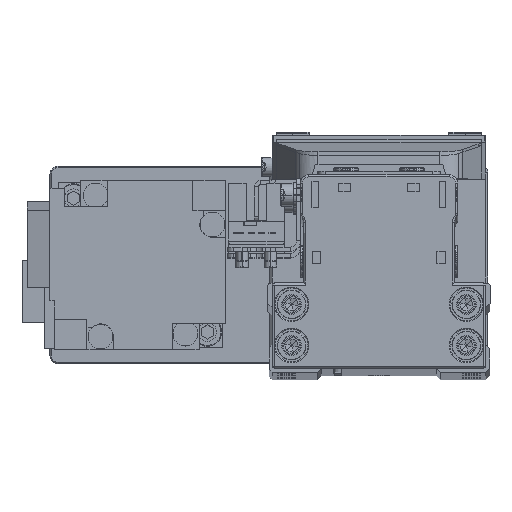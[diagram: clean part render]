
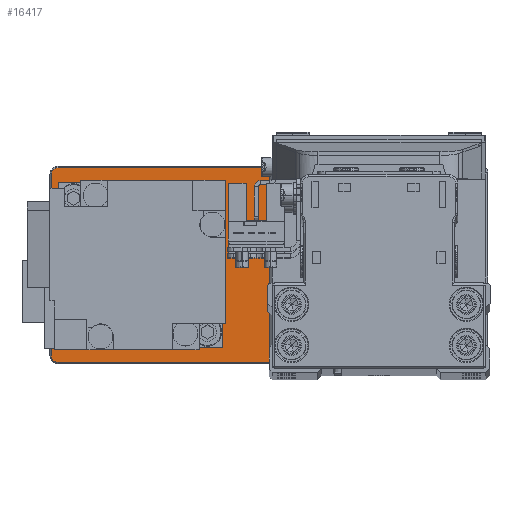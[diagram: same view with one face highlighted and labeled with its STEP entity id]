
A CAD part, top view. The second image highlights one B-rep face of the part: STEP entity #16417.
In plain terms, the highlighted planar face has unit normal (0, 0, 1).
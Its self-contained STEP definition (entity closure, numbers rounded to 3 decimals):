
#159 = EDGE_CURVE ( 'NONE', #37633, #38654, #30682, .T. ) ;
#758 = ORIENTED_EDGE ( 'NONE', *, *, #23570, .T. ) ;
#848 = DIRECTION ( 'NONE',  ( 1., 0., 0. ) ) ;
#1077 = EDGE_CURVE ( 'NONE', #6932, #15935, #21368, .T. ) ;
#1084 = PLANE ( 'NONE',  #8658 ) ;
#1208 = CARTESIAN_POINT ( 'NONE',  ( -50., 22., 5. ) ) ;
#1355 = VERTEX_POINT ( 'NONE', #20129 ) ;
#1693 = CARTESIAN_POINT ( 'NONE',  ( 51.7, 22., 5. ) ) ;
#1804 = ORIENTED_EDGE ( 'NONE', *, *, #22996, .T. ) ;
#2128 = DIRECTION ( 'NONE',  ( 1., 0., 0. ) ) ;
#2242 = DIRECTION ( 'NONE',  ( 0., 0., -1. ) ) ;
#2988 = CARTESIAN_POINT ( 'NONE',  ( -50., 23.7, 5. ) ) ;
#3457 = CIRCLE ( 'NONE', #5270, 1.7 ) ;
#3587 = AXIS2_PLACEMENT_3D ( 'NONE', #24499, #37081, #8809 ) ;
#4189 = FACE_BOUND ( 'NONE', #24601, .T. ) ;
#4329 = AXIS2_PLACEMENT_3D ( 'NONE', #9358, #21931, #34539 ) ;
#5270 = AXIS2_PLACEMENT_3D ( 'NONE', #1208, #13806, #26393 ) ;
#5667 = VECTOR ( 'NONE', #848, 1000. ) ;
#6153 = EDGE_LOOP ( 'NONE', ( #758, #31148, #6431, #1804, #36874, #32486, #20630, #15868 ) ) ;
#6392 = CARTESIAN_POINT ( 'NONE',  ( -51.7, -22., 5. ) ) ;
#6431 = ORIENTED_EDGE ( 'NONE', *, *, #8867, .T. ) ;
#6607 = EDGE_CURVE ( 'NONE', #12679, #1355, #39386, .T. ) ;
#6812 = EDGE_LOOP ( 'NONE', ( #20796, #21241 ) ) ;
#6932 = VERTEX_POINT ( 'NONE', #28064 ) ;
#7241 = CIRCLE ( 'NONE', #30321, 12.8 ) ;
#8658 = AXIS2_PLACEMENT_3D ( 'NONE', #13680, #26258, #38838 ) ;
#8809 = DIRECTION ( 'NONE',  ( 1., 0., 0. ) ) ;
#8867 = EDGE_CURVE ( 'NONE', #1355, #36634, #29983, .T. ) ;
#9358 = CARTESIAN_POINT ( 'NONE',  ( 50., 22., 5. ) ) ;
#9593 = CARTESIAN_POINT ( 'NONE',  ( 17.2, 0., 5. ) ) ;
#9631 = AXIS2_PLACEMENT_3D ( 'NONE', #12753, #25334, #37905 ) ;
#9883 = DIRECTION ( 'NONE',  ( -1., 0., 0. ) ) ;
#9955 = DIRECTION ( 'NONE',  ( 0., 0., 1. ) ) ;
#10006 = CARTESIAN_POINT ( 'NONE',  ( -51.7, 22., 5. ) ) ;
#11469 = EDGE_CURVE ( 'NONE', #19372, #38038, #34666, .T. ) ;
#11723 = DIRECTION ( 'NONE',  ( 1., 0., 0. ) ) ;
#12679 = VERTEX_POINT ( 'NONE', #31370 ) ;
#12753 = CARTESIAN_POINT ( 'NONE',  ( -50., -22., 5. ) ) ;
#13035 = EDGE_CURVE ( 'NONE', #15935, #6932, #15699, .T. ) ;
#13056 = CARTESIAN_POINT ( 'NONE',  ( 50., 23.7, 5. ) ) ;
#13680 = CARTESIAN_POINT ( 'NONE',  ( 0., 0., 5. ) ) ;
#13806 = DIRECTION ( 'NONE',  ( 0., 0., 1. ) ) ;
#14284 = DIRECTION ( 'NONE',  ( 0., 1., 0. ) ) ;
#14827 = DIRECTION ( 'NONE',  ( 1., 0., 0. ) ) ;
#14831 = CARTESIAN_POINT ( 'NONE',  ( -51.7, -22., 5. ) ) ;
#15128 = VECTOR ( 'NONE', #18968, 1000. ) ;
#15631 = VECTOR ( 'NONE', #14284, 1000. ) ;
#15699 = CIRCLE ( 'NONE', #20963, 10.3 ) ;
#15868 = ORIENTED_EDGE ( 'NONE', *, *, #21967, .T. ) ;
#15935 = VERTEX_POINT ( 'NONE', #31525 ) ;
#16417 = ADVANCED_FACE ( 'NONE', ( #4189, #16786, #29376 ), #1084, .T. ) ;
#16541 = LINE ( 'NONE', #29133, #5667 ) ;
#16786 = FACE_BOUND ( 'NONE', #6812, .T. ) ;
#17324 = CARTESIAN_POINT ( 'NONE',  ( 51.7, 22., 5. ) ) ;
#17810 = CARTESIAN_POINT ( 'NONE',  ( 30., 0., 5. ) ) ;
#18153 = VERTEX_POINT ( 'NONE', #13056 ) ;
#18160 = AXIS2_PLACEMENT_3D ( 'NONE', #17810, #30407, #2128 ) ;
#18968 = DIRECTION ( 'NONE',  ( 0., -1., 0. ) ) ;
#19372 = VERTEX_POINT ( 'NONE', #10006 ) ;
#20129 = CARTESIAN_POINT ( 'NONE',  ( 51.7, -22., 5. ) ) ;
#20630 = ORIENTED_EDGE ( 'NONE', *, *, #11469, .T. ) ;
#20796 = ORIENTED_EDGE ( 'NONE', *, *, #1077, .T. ) ;
#20909 = CARTESIAN_POINT ( 'NONE',  ( 42.8, 0., 5. ) ) ;
#20963 = AXIS2_PLACEMENT_3D ( 'NONE', #27415, #39984, #11723 ) ;
#21241 = ORIENTED_EDGE ( 'NONE', *, *, #13035, .T. ) ;
#21368 = CIRCLE ( 'NONE', #3587, 10.3 ) ;
#21573 = AXIS2_PLACEMENT_3D ( 'NONE', #38206, #9955, #22530 ) ;
#21931 = DIRECTION ( 'NONE',  ( 0., 0., 1. ) ) ;
#21967 = EDGE_CURVE ( 'NONE', #38038, #28463, #27428, .T. ) ;
#22103 = CIRCLE ( 'NONE', #4329, 1.7 ) ;
#22530 = DIRECTION ( 'NONE',  ( 1., 0., 0. ) ) ;
#22996 = EDGE_CURVE ( 'NONE', #36634, #18153, #22103, .T. ) ;
#23570 = EDGE_CURVE ( 'NONE', #28463, #12679, #16541, .T. ) ;
#23904 = ORIENTED_EDGE ( 'NONE', *, *, #159, .T. ) ;
#24172 = ORIENTED_EDGE ( 'NONE', *, *, #36747, .T. ) ;
#24499 = CARTESIAN_POINT ( 'NONE',  ( -28., 0., 5. ) ) ;
#24601 = EDGE_LOOP ( 'NONE', ( #23904, #24172 ) ) ;
#25334 = DIRECTION ( 'NONE',  ( 0., 0., 1. ) ) ;
#25554 = LINE ( 'NONE', #38137, #28700 ) ;
#26258 = DIRECTION ( 'NONE',  ( 0., 0., 1. ) ) ;
#26393 = DIRECTION ( 'NONE',  ( 1., 0., 0. ) ) ;
#26616 = EDGE_CURVE ( 'NONE', #39385, #19372, #3457, .T. ) ;
#27415 = CARTESIAN_POINT ( 'NONE',  ( -28., 0., 5. ) ) ;
#27428 = CIRCLE ( 'NONE', #9631, 1.7 ) ;
#28064 = CARTESIAN_POINT ( 'NONE',  ( -17.7, 0., 5. ) ) ;
#28463 = VERTEX_POINT ( 'NONE', #35203 ) ;
#28700 = VECTOR ( 'NONE', #9883, 1000. ) ;
#29133 = CARTESIAN_POINT ( 'NONE',  ( 50., -23.7, 5. ) ) ;
#29261 = EDGE_CURVE ( 'NONE', #18153, #39385, #25554, .T. ) ;
#29376 = FACE_OUTER_BOUND ( 'NONE', #6153, .T. ) ;
#29983 = LINE ( 'NONE', #1693, #15631 ) ;
#30321 = AXIS2_PLACEMENT_3D ( 'NONE', #30520, #2242, #14827 ) ;
#30407 = DIRECTION ( 'NONE',  ( 0., 0., -1. ) ) ;
#30520 = CARTESIAN_POINT ( 'NONE',  ( 30., 0., 5. ) ) ;
#30682 = CIRCLE ( 'NONE', #18160, 12.8 ) ;
#31148 = ORIENTED_EDGE ( 'NONE', *, *, #6607, .T. ) ;
#31370 = CARTESIAN_POINT ( 'NONE',  ( 50., -23.7, 5. ) ) ;
#31525 = CARTESIAN_POINT ( 'NONE',  ( -38.3, 0., 5. ) ) ;
#32486 = ORIENTED_EDGE ( 'NONE', *, *, #26616, .T. ) ;
#34539 = DIRECTION ( 'NONE',  ( 1., 0., 0. ) ) ;
#34666 = LINE ( 'NONE', #6392, #15128 ) ;
#35203 = CARTESIAN_POINT ( 'NONE',  ( -50., -23.7, 5. ) ) ;
#36634 = VERTEX_POINT ( 'NONE', #17324 ) ;
#36747 = EDGE_CURVE ( 'NONE', #38654, #37633, #7241, .T. ) ;
#36874 = ORIENTED_EDGE ( 'NONE', *, *, #29261, .T. ) ;
#37081 = DIRECTION ( 'NONE',  ( 0., 0., -1. ) ) ;
#37633 = VERTEX_POINT ( 'NONE', #20909 ) ;
#37905 = DIRECTION ( 'NONE',  ( 1., 0., 0. ) ) ;
#38038 = VERTEX_POINT ( 'NONE', #14831 ) ;
#38137 = CARTESIAN_POINT ( 'NONE',  ( -50., 23.7, 5. ) ) ;
#38206 = CARTESIAN_POINT ( 'NONE',  ( 50., -22., 5. ) ) ;
#38654 = VERTEX_POINT ( 'NONE', #9593 ) ;
#38838 = DIRECTION ( 'NONE',  ( 1., 0., 0. ) ) ;
#39385 = VERTEX_POINT ( 'NONE', #2988 ) ;
#39386 = CIRCLE ( 'NONE', #21573, 1.7 ) ;
#39984 = DIRECTION ( 'NONE',  ( 0., 0., -1. ) ) ;
